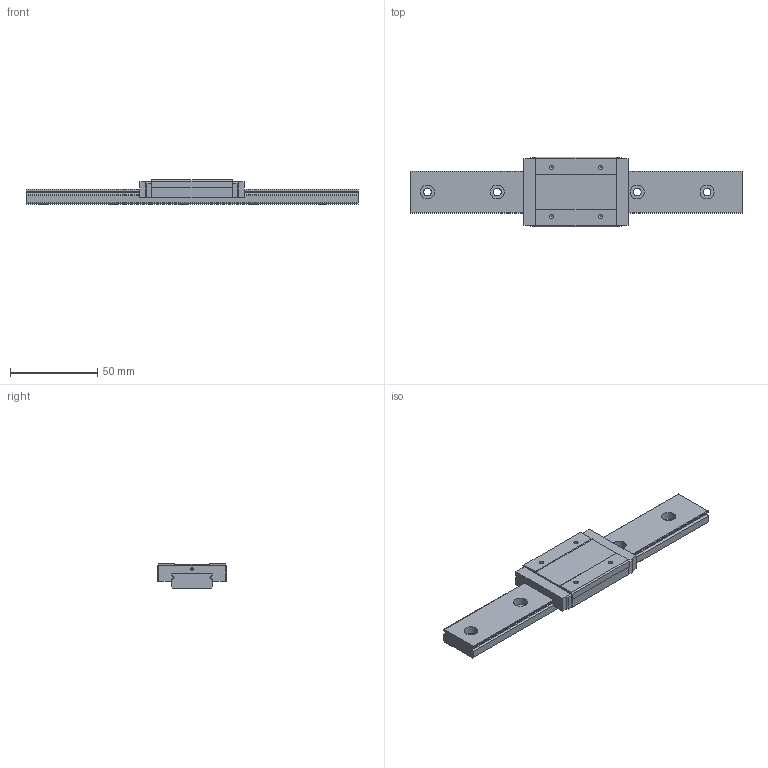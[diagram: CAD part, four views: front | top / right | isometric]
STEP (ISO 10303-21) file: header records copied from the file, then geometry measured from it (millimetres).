
FILE_DESCRIPTION((''),'2;1');
FILE_NAME('C:\Documents and Settings\土屋\My Documents\土屋移動用フォルダ\製品 (図面)\カタログ用3D\リニアガイド\EGM-WL\EGM12WL.stp','2015-02-21T13:18:48',('y'),(''),'Autodesk Inventor 11','Autodesk Inventor 11','');
FILE_SCHEMA(('AUTOMOTIVE_DESIGN { 1 0 10303 214 1 1 1 1 }'));
Length unit declared in the file: millimetre
Products named in the file (3): EGM12WL; EGM12WLレール; EGM12WLベアリング
Assembly tree (2 placements, depth 2):
  EGM12WL
    EGM12WLレール
    EGM12WLベアリング
Bounding box: 190 x 40 x 14 mm (x, y, z)
Volume: 52665 mm3; surface area: 21389 mm2
Topology: 2 solids, 2 shells, 97 faces, 254 edges, 168 vertices
Faces by surface type: plane 54, bspline 25, cylinder 18
Full cylindrical faces by diameter (mm): 1.4 x1
Entity records: 3153 total; most frequent: CARTESIAN_POINT 829, ORIENTED_EDGE 452, DIRECTION 446, EDGE_CURVE 226, VERTEX_POINT 160, VECTOR 160, LINE 160, AXIS2_PLACEMENT_3D 143
